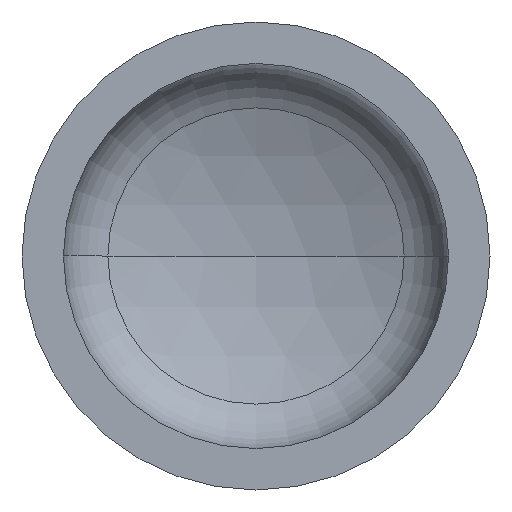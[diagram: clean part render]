
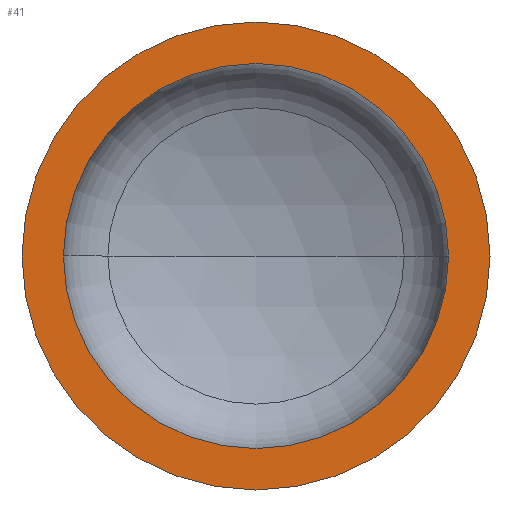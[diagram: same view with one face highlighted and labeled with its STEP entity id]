
A CAD part, front view. The second image highlights one B-rep face of the part: STEP entity #41.
In plain terms, the highlighted planar face has unit normal (0, -1, 0).
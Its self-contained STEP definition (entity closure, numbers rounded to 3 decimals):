
#2 = EDGE_LOOP ( 'NONE', ( #84, #51 ) ) ;
#8 = AXIS2_PLACEMENT_3D ( 'NONE', #149, #96, #152 ) ;
#28 = VERTEX_POINT ( 'NONE', #298 ) ;
#36 = ORIENTED_EDGE ( 'NONE', *, *, #339, .F. ) ;
#41 = ADVANCED_FACE ( 'NONE', ( #356, #286 ), #260, .F. ) ;
#46 = EDGE_LOOP ( 'NONE', ( #407, #36 ) ) ;
#51 = ORIENTED_EDGE ( 'NONE', *, *, #126, .T. ) ;
#69 = VERTEX_POINT ( 'NONE', #252 ) ;
#78 = AXIS2_PLACEMENT_3D ( 'NONE', #318, #304, #300 ) ;
#80 = AXIS2_PLACEMENT_3D ( 'NONE', #317, #316, #310 ) ;
#84 = ORIENTED_EDGE ( 'NONE', *, *, #368, .T. ) ;
#85 = VERTEX_POINT ( 'NONE', #251 ) ;
#96 = DIRECTION ( 'NONE',  ( 0., -1., 0. ) ) ;
#107 = AXIS2_PLACEMENT_3D ( 'NONE', #190, #364, #214 ) ;
#108 = AXIS2_PLACEMENT_3D ( 'NONE', #408, #270, #254 ) ;
#114 = VERTEX_POINT ( 'NONE', #247 ) ;
#126 = EDGE_CURVE ( 'NONE', #28, #69, #347, .T. ) ;
#127 = EDGE_CURVE ( 'NONE', #114, #85, #280, .T. ) ;
#149 = CARTESIAN_POINT ( 'NONE',  ( 0., 0., 0. ) ) ;
#152 = DIRECTION ( 'NONE',  ( 1., 0., 0. ) ) ;
#190 = CARTESIAN_POINT ( 'NONE',  ( 0., 0., 0. ) ) ;
#214 = DIRECTION ( 'NONE',  ( 1., 0., 0. ) ) ;
#247 = CARTESIAN_POINT ( 'NONE',  ( 288., 0., 0. ) ) ;
#251 = CARTESIAN_POINT ( 'NONE',  ( -288., 0., 0. ) ) ;
#252 = CARTESIAN_POINT ( 'NONE',  ( 350., 0., 0. ) ) ;
#254 = DIRECTION ( 'NONE',  ( -1., 0., 0. ) ) ;
#260 = PLANE ( 'NONE',  #108 ) ;
#270 = DIRECTION ( 'NONE',  ( 0., 1., 0. ) ) ;
#280 = CIRCLE ( 'NONE', #78, 288. ) ;
#286 = FACE_OUTER_BOUND ( 'NONE', #2, .T. ) ;
#298 = CARTESIAN_POINT ( 'NONE',  ( -350., 0., 0. ) ) ;
#300 = DIRECTION ( 'NONE',  ( 1., 0., 0. ) ) ;
#304 = DIRECTION ( 'NONE',  ( 0., -1., 0. ) ) ;
#310 = DIRECTION ( 'NONE',  ( 1., 0., 0. ) ) ;
#316 = DIRECTION ( 'NONE',  ( 0., -1., 0. ) ) ;
#317 = CARTESIAN_POINT ( 'NONE',  ( 0., 0., 0. ) ) ;
#318 = CARTESIAN_POINT ( 'NONE',  ( 0., 0., 0. ) ) ;
#339 = EDGE_CURVE ( 'NONE', #85, #114, #367, .T. ) ;
#347 = CIRCLE ( 'NONE', #80, 350. ) ;
#349 = CIRCLE ( 'NONE', #107, 350. ) ;
#356 = FACE_BOUND ( 'NONE', #46, .T. ) ;
#364 = DIRECTION ( 'NONE',  ( 0., -1., 0. ) ) ;
#367 = CIRCLE ( 'NONE', #8, 288. ) ;
#368 = EDGE_CURVE ( 'NONE', #69, #28, #349, .T. ) ;
#407 = ORIENTED_EDGE ( 'NONE', *, *, #127, .F. ) ;
#408 = CARTESIAN_POINT ( 'NONE',  ( -350., 0., 0. ) ) ;
